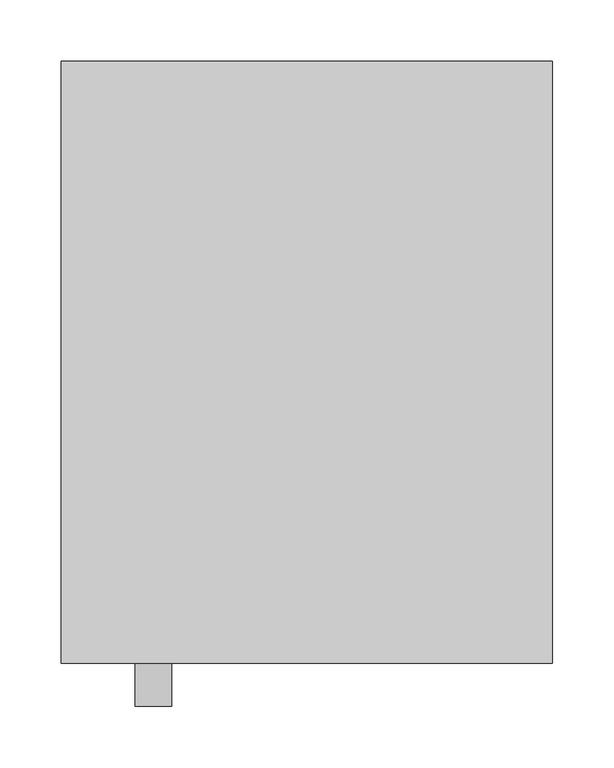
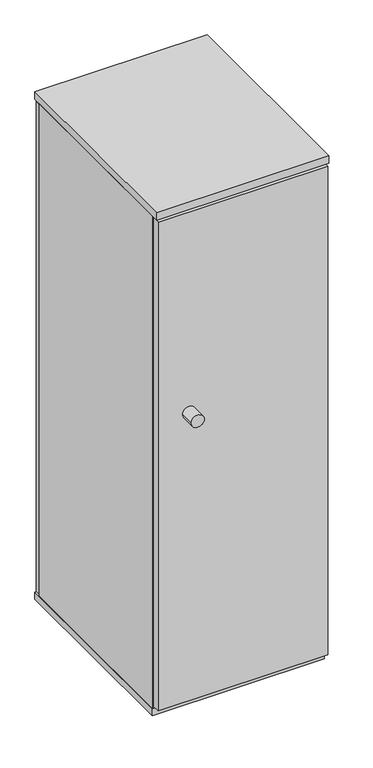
"""IFC4 building model written with IfcOpenShell, lengths in millimetres: furniture geometry, Grid Lockers - 1 Door Complimentary : GRID SINGLE DOOR CABINET 800mm(w) x 490mm(d) x 1256mm(h)."""

from ifc_helpers import new_model, si_unit, point, frame, frame_2d, origin, origin_with_axes, place, context, project, spatial, polyline, circle_curve, trimmed, segment, composite_curve, outline, extrude, source, transform, mapped, element, save


def furniture_fa851ee8(model_context):
    return source(origin(), model_context, "Body", "SweptSolid", [
        extrude(outline(composite_curve([segment(trimmed(circle_curve(frame_2d((350.0, -50.0)), 15.0), [point((335.0, -50.0))], [point((365.0, -50.0))], False, "CARTESIAN"), True, "CONTINUOUS"), segment(trimmed(circle_curve(frame_2d((350.0, -50.0)), 15.0), [point((365.0, -50.0))], [point((335.0, -50.0))], False, "CARTESIAN"), True, "CONTINUOUS")], self_intersect=False)), origin_with_axes(), (0.0, 0.0, 1.0), 10.0),
        extrude(outline(composite_curve([segment(trimmed(circle_curve(frame_2d((50.0, -50.0)), 15.0), [point((35.0, -50.0))], [point((65.0, -50.0))], False, "CARTESIAN"), True, "CONTINUOUS"), segment(trimmed(circle_curve(frame_2d((50.0, -50.0)), 15.0), [point((65.0, -50.0))], [point((35.0, -50.0))], False, "CARTESIAN"), True, "CONTINUOUS")], self_intersect=False)), origin_with_axes(), (0.0, 0.0, 1.0), 10.0),
        extrude(outline(composite_curve([segment(trimmed(circle_curve(frame_2d((50.0, -440.0)), 15.0), [point((35.0, -440.0))], [point((65.0, -440.0))], False, "CARTESIAN"), True, "CONTINUOUS"), segment(trimmed(circle_curve(frame_2d((50.0, -440.0)), 15.0), [point((65.0, -440.0))], [point((35.0, -440.0))], False, "CARTESIAN"), True, "CONTINUOUS")], self_intersect=False)), origin_with_axes(), (0.0, 0.0, 1.0), 10.0),
        extrude(outline(composite_curve([segment(trimmed(circle_curve(frame_2d((350.0, -440.0)), 15.0), [point((335.0, -440.0))], [point((365.0, -440.0))], False, "CARTESIAN"), True, "CONTINUOUS"), segment(trimmed(circle_curve(frame_2d((350.0, -440.0)), 15.0), [point((365.0, -440.0))], [point((335.0, -440.0))], False, "CARTESIAN"), True, "CONTINUOUS")], self_intersect=False)), origin_with_axes(), (0.0, 0.0, 1.0), 10.0),
        extrude(outline(polyline([(400.0, -472.0), (0.0, -472.0), (0.0, 0.0), (400.0, 0.0), (400.0, -472.0)])), frame((0.0, 0.0, 10.0), z_axis=(0.0, 0.0, 1.0), x_axis=(1.0, 0.0, 0.0)), (0.0, 0.0, 1.0), 18.0),
        extrude(outline(polyline([(400.0, -490.0), (0.0, -490.0), (0.0, 0.0), (400.0, 0.0), (400.0, -490.0)])), frame((0.0, 0.0, 1238.0), z_axis=(0.0, 0.0, 1.0), x_axis=(1.0, 0.0, 0.0)), (0.0, 0.0, 1.0), 18.0),
        extrude(outline(composite_curve([segment(trimmed(circle_curve(frame_2d((740.0, 75.0)), 15.0), [point((740.0, 60.0))], [point((740.0, 90.0))], False, "CARTESIAN"), True, "CONTINUOUS"), segment(trimmed(circle_curve(frame_2d((740.0, 75.0)), 15.0), [point((740.0, 90.0))], [point((740.0, 60.0))], False, "CARTESIAN"), True, "CONTINUOUS")], self_intersect=False)), frame((0.0, -525.0, 0.0), z_axis=(0.0, 1.0, 0.0), x_axis=(0.0, 0.0, 1.0)), (0.0, 0.0, 1.0), 35.0),
        extrude(outline(polyline([(1238.0, 400.0), (1238.0, 0.0), (28.0, 0.0), (28.0, 3.0), (1213.0, 3.0), (1213.0, 397.0), (28.0, 397.0), (28.0, 400.0), (1238.0, 400.0)])), frame((0.0, -472.0, 0.0), z_axis=(0.0, 1.0, 0.0), x_axis=(0.0, 0.0, 1.0)), (0.0, 0.0, 1.0), 454.0),
        extrude(outline(polyline([(397.0, -490.0), (3.0, -490.0), (3.0, -472.0), (397.0, -472.0), (397.0, -490.0)])), frame((0.0, 0.0, 32.0), z_axis=(0.0, 0.0, 1.0), x_axis=(1.0, 0.0, 0.0)), (0.0, 0.0, 1.0), 1200.0),
        extrude(outline(polyline([(397.0, 0.0), (397.0, -18.0), (3.0, -18.0), (3.0, 0.0), (397.0, 0.0)])), frame((0.0, 0.0, 18.0), z_axis=(0.0, 0.0, 1.0), x_axis=(1.0, 0.0, 0.0)), (0.0, 0.0, 1.0), 1214.0),
    ])


if __name__ == "__main__":
    model = new_model("IFC4")
    model_context = context("Model", 3, world=origin())
    ifc_project = project(units=[si_unit("LENGTHUNIT", "METRE", prefix="MILLI")], contexts=[model_context])
    site = spatial("IfcSite", under=ifc_project)
    building = spatial("IfcBuilding", under=site)
    placement = place(None, origin())
    furniture_shape = furniture_fa851ee8(model_context)
    element("IfcFurniture", 1, ObjectType="Grid Lockers - 1 Door Complimentary : GRID SINGLE DOOR CABINET 800mm(w) x 490mm(d) x 1256mm(h)", at=placement, inside=building, context=model_context, shape_type="MappedRepresentation", body=[
        mapped(furniture_shape, transform((0.0, 0.0, 0.0), x_axis=(1.0, 0.0, 0.0), y_axis=(0.0, 1.0, 0.0), z_axis=(0.0, 0.0, 1.0))),
    ])
    save(model, "model.ifc")
